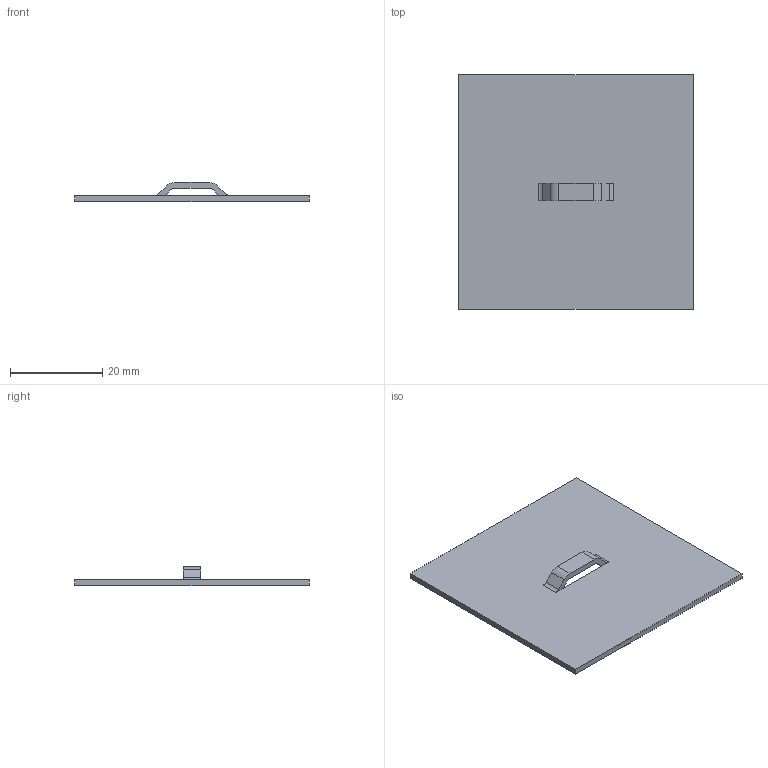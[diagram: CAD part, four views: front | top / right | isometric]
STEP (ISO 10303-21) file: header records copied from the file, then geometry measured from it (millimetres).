
FILE_DESCRIPTION((''),'1');
FILE_NAME('C:/Users/robertnolte/Desktop/WT#196717-20.stp','2012-03-28T01:08:24',(''),(''),'Spatial Interop R21 SP3','Kubotek KeyCreator 2011 V10.5.0 (24766)',' ');
FILE_SCHEMA(('CONFIG_CONTROL_DESIGN'));
Length unit declared in the file: inch
Products named in the file (1): 1
Bounding box: 50.8 x 50.8 x 4.11 mm (x, y, z)
Volume: 3287.2 mm3; surface area: 5506.8 mm2
Topology: 1 solids, 1 shells, 24 faces, 68 edges, 44 vertices
Faces by surface type: plane 16, cylinder 8
Entity records: 828 total; most frequent: CARTESIAN_POINT 137, ORIENTED_EDGE 136, DIRECTION 134, EDGE_CURVE 68, LINE 52, VECTOR 52, VERTEX_POINT 44, AXIS2_PLACEMENT_3D 41
